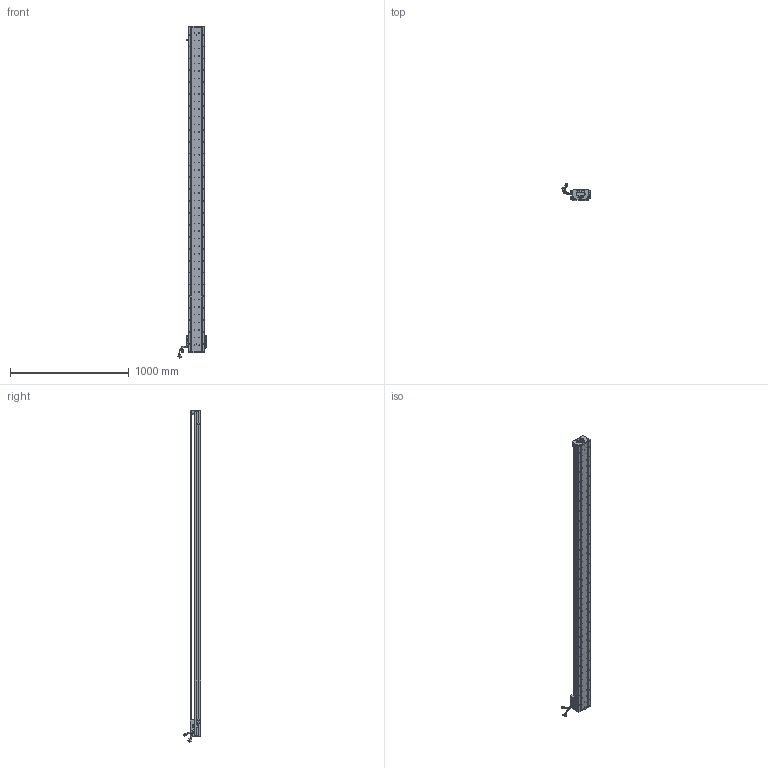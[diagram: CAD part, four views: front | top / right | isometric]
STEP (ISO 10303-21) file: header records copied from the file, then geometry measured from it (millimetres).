
FILE_DESCRIPTION (( 'STEP AP203' ), '1' );
FILE_NAME ('Z1-RY140D-1-L500-B-K.SLDASM_2550.step', '2021-05-17T07:35:39', ( '盈信电脑' ), ( '东莞市道滘镇水果街19号' ), 'SwSTEP 2.0', 'SolidWorks 2016', '' );
FILE_SCHEMA (( 'CONFIG_CONTROL_DESIGN' ));
Length unit declared in the file: millimetre
Products named in the file (36): HARNESS; 140-Z-臏賑輸盄裔(21遴); Z1-RY140圉猾敕臏賑輸(21遴); COVER; SCREW-M1.6-3; SCREW-M1.7-1; Z-140詩湍傷裔啣; LABEL-Part-1; SEAL; SCALE; SCREW-M1.7; Z-RY140感应器672光电感应片; HARNESS-Part-1; SCREW-M1.6-1; Z1-RY140-L500直线电机模组底座_2550; 榋妏寠巭燃_暯_M2_2; HARNESS-Part-2; Z-RY140詩湍狟揤裔; 140雄赽晤鎢ん堤盄; PBU_SHEET; Z1-RY140-L500詩湍100mm遵_2550; 覜茼ん672; PSLH080_PSLF2; SHIELDPLATE; SCREW-M1.6; 080黍杅芛假蚾釱21遴; 140蚥薯蝶輸; SCALE-Part-2; SCALE-Part-1; Z1-RY140D-1-L500-B-K.SLDASM_2550; LABEL; HOLDER0; SCREW-M1.6-2; COVER-Part-1; SEAL-Part-1; Z-RY140詩湍奻揤裔
Assembly tree (41 placements, depth 4):
  Z1-RY140D-1-L500-B-K.SLDASM_2550
    Z1-RY140-L500直线电机模组底座_2550
    Z-RY140感应器672光电感应片
    Z1-RY140圉猾敕臏賑輸(21遴)
    覜茼ん672  x3
    Z1-RY140-L500詩湍100mm遵_2550
    PSLH080_PSLF2
      SCALE
        SCALE-Part-1
        SCALE-Part-2
      HARNESS
        HARNESS-Part-1
        HARNESS-Part-2
      LABEL
        LABEL-Part-1
      COVER
        COVER-Part-1
      SEAL
        SEAL-Part-1
      榋妏寠巭燃_暯_M2_2
      SHIELDPLATE
      SCREW-M1.7
      SCREW-M1.7-1
      PBU_SHEET
      SCREW-M1.6
      SCREW-M1.6-1
      SCREW-M1.6-2
      SCREW-M1.6-3
      HOLDER0
    080黍杅芛假蚾釱21遴
    140-Z-臏賑輸盄裔(21遴)
    Z-140詩湍傷裔啣  x2
    Z-RY140詩湍狟揤裔  x2
    Z-RY140詩湍奻揤裔  x2
    140蚥薯蝶輸  x2
    140雄赽晤鎢ん堤盄
Bounding box: 239.79 x 143.88 x 2790.87 mm (x, y, z)
Volume: 8502599 mm3; surface area: 2254384.7 mm2
Topology: 36 solids, 36 shells, 4108 faces, 11214 edges, 7111 vertices
Faces by surface type: cylinder 2232, plane 1372, cone 382, torus 69, bspline 53
Entity records: 131034 total; most frequent: CARTESIAN_POINT 37509, ORIENTED_EDGE 19356, DIRECTION 17746, EDGE_CURVE 9678, AXIS2_PLACEMENT_3D 6580, VERTEX_POINT 6279, LINE 4586, VECTOR 4586
